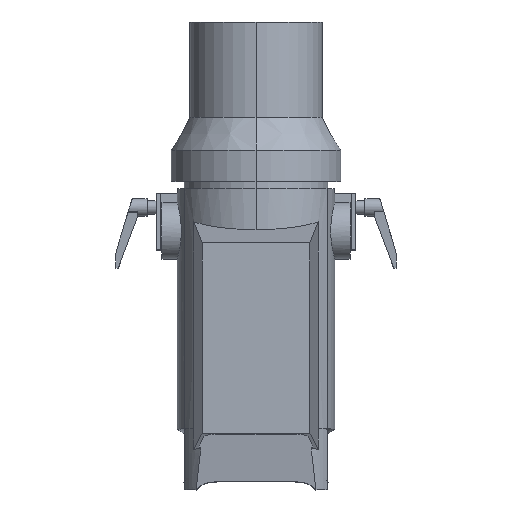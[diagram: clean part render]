
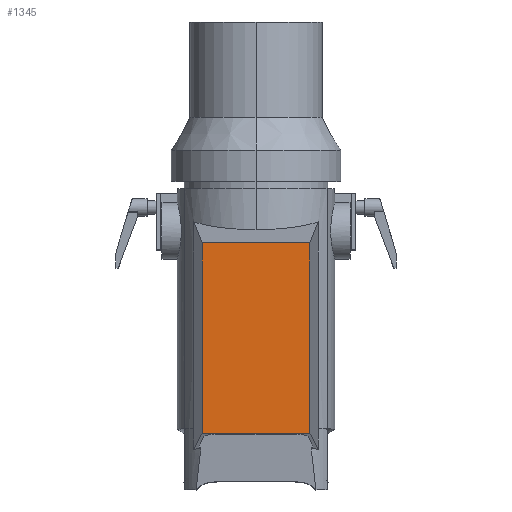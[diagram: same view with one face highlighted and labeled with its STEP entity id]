
A CAD part, top view. The second image highlights one B-rep face of the part: STEP entity #1345.
In plain terms, the highlighted planar face has unit normal (0, 0, 1).
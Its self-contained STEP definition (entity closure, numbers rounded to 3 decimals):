
#1=DIRECTION('',(-1.,0.,0.));
#2=VECTOR('',#1,114.478);
#3=CARTESIAN_POINT('',(57.239,-57.931,138.492));
#4=LINE('',#3,#2);
#27=DIRECTION('',(0.,1.,0.));
#28=VECTOR('',#27,202.);
#29=CARTESIAN_POINT('',(57.239,-259.931,138.492));
#30=LINE('',#29,#28);
#74=DIRECTION('',(-1.,0.,0.));
#75=VECTOR('',#74,114.478);
#76=CARTESIAN_POINT('',(57.239,-259.931,138.492));
#77=LINE('',#76,#75);
#82=DIRECTION('',(0.,-1.,0.));
#83=VECTOR('',#82,202.);
#84=CARTESIAN_POINT('',(-57.239,-57.931,138.492));
#85=LINE('',#84,#83);
#1259=CARTESIAN_POINT('',(57.239,-259.931,138.492));
#1260=CARTESIAN_POINT('',(57.239,-57.931,138.492));
#1261=VERTEX_POINT('',#1259);
#1262=VERTEX_POINT('',#1260);
#1263=CARTESIAN_POINT('',(-57.239,-57.931,
138.492));
#1264=CARTESIAN_POINT('',(-57.239,-259.931,
138.492));
#1265=VERTEX_POINT('',#1263);
#1266=VERTEX_POINT('',#1264);
#1333=CARTESIAN_POINT('',(-66.,-57.931,138.492));
#1334=DIRECTION('',(0.,0.,1.));
#1335=DIRECTION('',(0.,-1.,0.));
#1336=AXIS2_PLACEMENT_3D('',#1333,#1334,#1335);
#1337=PLANE('',#1336);
#1338=ORIENTED_EDGE('',*,*,#1274,.F.);
#1339=ORIENTED_EDGE('',*,*,#1292,.F.);
#1340=ORIENTED_EDGE('',*,*,#1307,.T.);
#1342=ORIENTED_EDGE('',*,*,#1341,.F.);
#1343=EDGE_LOOP('',(#1338,#1339,#1340,#1342));
#1344=FACE_OUTER_BOUND('',#1343,.F.);
#1345=ADVANCED_FACE('',(#1344),#1337,.T.);
#1274=EDGE_CURVE('',#1262,#1265,#4,.T.);
#1292=EDGE_CURVE('',#1261,#1262,#30,.T.);
#1307=EDGE_CURVE('',#1261,#1266,#77,.T.);
#1341=EDGE_CURVE('',#1265,#1266,#85,.T.);
